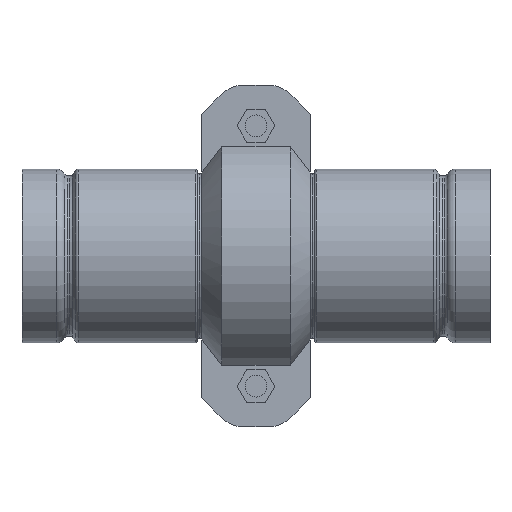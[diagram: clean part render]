
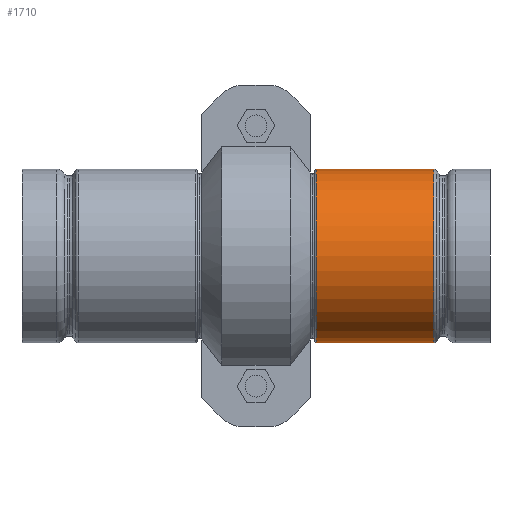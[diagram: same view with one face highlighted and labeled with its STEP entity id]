
A CAD part, front view. The second image highlights one B-rep face of the part: STEP entity #1710.
In plain terms, the highlighted cylindrical face has radius 38.1 mm (diameter 76.2 mm), a full revolution.
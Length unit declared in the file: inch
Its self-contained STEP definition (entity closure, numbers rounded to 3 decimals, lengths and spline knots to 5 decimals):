
#53=LINE('',#2794,#148);
#148=VECTOR('',#2247,1.5);
#243=CYLINDRICAL_SURFACE('',#1933,1.5);
#339=FACE_OUTER_BOUND('',#434,.T.);
#434=EDGE_LOOP('',(#1186,#1187,#1188,#1189,#1190,#1191,#1192,#1193));
#569=CIRCLE('',#1929,1.5);
#570=CIRCLE('',#1930,1.5);
#572=CIRCLE('',#1932,1.5);
#573=CIRCLE('',#1934,1.5);
#574=CIRCLE('',#1935,1.5);
#575=CIRCLE('',#1936,1.5);
#706=VERTEX_POINT('',#2781);
#707=VERTEX_POINT('',#2782);
#708=VERTEX_POINT('',#2784);
#709=VERTEX_POINT('',#2789);
#710=VERTEX_POINT('',#2790);
#711=VERTEX_POINT('',#2792);
#891=EDGE_CURVE('',#706,#707,#569,.T.);
#892=EDGE_CURVE('',#707,#708,#570,.T.);
#894=EDGE_CURVE('',#708,#706,#572,.T.);
#895=EDGE_CURVE('',#709,#710,#573,.T.);
#896=EDGE_CURVE('',#711,#709,#574,.T.);
#897=EDGE_CURVE('',#711,#707,#53,.T.);
#898=EDGE_CURVE('',#710,#711,#575,.T.);
#1186=ORIENTED_EDGE('',*,*,#895,.F.);
#1187=ORIENTED_EDGE('',*,*,#896,.F.);
#1188=ORIENTED_EDGE('',*,*,#897,.T.);
#1189=ORIENTED_EDGE('',*,*,#891,.F.);
#1190=ORIENTED_EDGE('',*,*,#894,.F.);
#1191=ORIENTED_EDGE('',*,*,#892,.F.);
#1192=ORIENTED_EDGE('',*,*,#897,.F.);
#1193=ORIENTED_EDGE('',*,*,#898,.F.);
#1710=ADVANCED_FACE('',(#339),#243,.T.);
#1929=AXIS2_PLACEMENT_3D('',#2783,#2233,#2234);
#1930=AXIS2_PLACEMENT_3D('',#2785,#2235,#2236);
#1932=AXIS2_PLACEMENT_3D('',#2787,#2239,#2240);
#1933=AXIS2_PLACEMENT_3D('',#2788,#2241,#2242);
#1934=AXIS2_PLACEMENT_3D('',#2791,#2243,#2244);
#1935=AXIS2_PLACEMENT_3D('',#2793,#2245,#2246);
#1936=AXIS2_PLACEMENT_3D('',#2795,#2248,#2249);
#2233=DIRECTION('center_axis',(-1.,0.,0.));
#2234=DIRECTION('ref_axis',(0.,-1.,0.));
#2235=DIRECTION('center_axis',(-1.,0.,0.));
#2236=DIRECTION('ref_axis',(0.,-1.,0.));
#2239=DIRECTION('center_axis',(-1.,0.,0.));
#2240=DIRECTION('ref_axis',(0.,-1.,0.));
#2241=DIRECTION('center_axis',(1.,0.,0.));
#2242=DIRECTION('ref_axis',(0.,1.,0.));
#2243=DIRECTION('center_axis',(1.,0.,0.));
#2244=DIRECTION('ref_axis',(0.,-1.,0.));
#2245=DIRECTION('center_axis',(1.,0.,0.));
#2246=DIRECTION('ref_axis',(0.,-1.,0.));
#2247=DIRECTION('',(-1.,0.,0.));
#2248=DIRECTION('center_axis',(1.,0.,0.));
#2249=DIRECTION('ref_axis',(0.,-1.,0.));
#2781=CARTESIAN_POINT('',(0.999,1.5,0.));
#2782=CARTESIAN_POINT('',(0.999,-1.5,0.));
#2783=CARTESIAN_POINT('Origin',(0.999,0.,0.));
#2784=CARTESIAN_POINT('',(0.999,0.,1.5));
#2785=CARTESIAN_POINT('Origin',(0.999,0.,0.));
#2787=CARTESIAN_POINT('Origin',(0.999,0.,0.));
#2788=CARTESIAN_POINT('Origin',(2.01424,0.,0.));
#2789=CARTESIAN_POINT('',(3.02824,1.5,0.));
#2790=CARTESIAN_POINT('',(3.02824,0.,1.5));
#2791=CARTESIAN_POINT('Origin',(3.02824,0.,0.));
#2792=CARTESIAN_POINT('',(3.02824,-1.5,0.));
#2793=CARTESIAN_POINT('Origin',(3.02824,0.,0.));
#2794=CARTESIAN_POINT('',(2.01424,-1.5,0.));
#2795=CARTESIAN_POINT('Origin',(3.02824,0.,0.));
